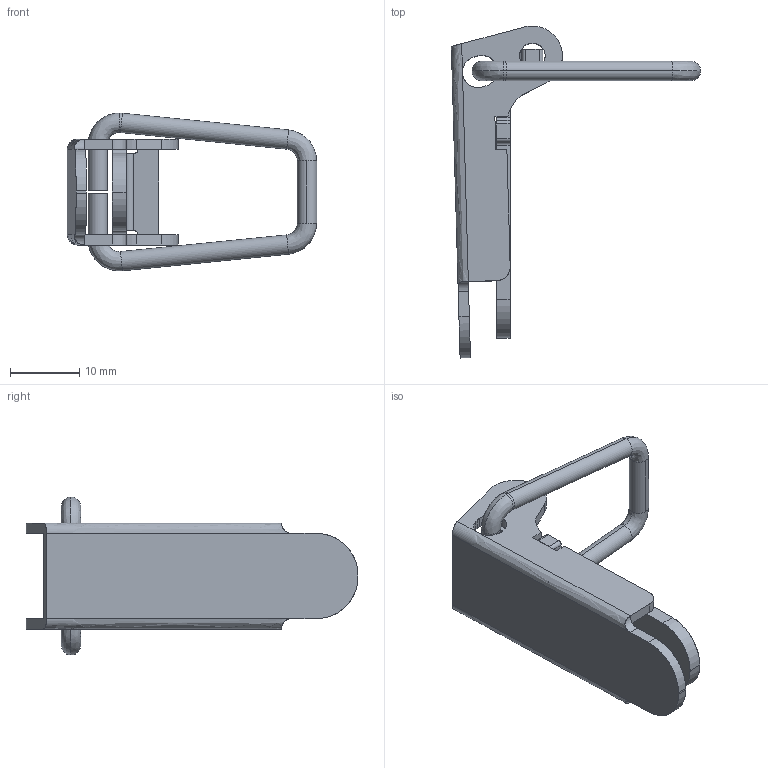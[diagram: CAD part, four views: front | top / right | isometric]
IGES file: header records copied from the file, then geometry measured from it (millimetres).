
Start section: SolidWorks IGES file using analytic representation for surfaces
Global section: file name: Z:\Mes documents\ATAO iges\Gamme GO\GO 1015.IGS; native system: SolidWorks 2013; preprocessor: SolidWorks 2013; author: cbrechard; date: 160310.143442; units: millimetre
Bounding box: 36 x 47.93 x 22.79 mm (x, y, z)
Surface area: 4660.8 mm2 (no closed solid volume)
Topology: 0 solids, 0 shells, 113 faces, 1374 edges, 1370 vertices
Faces by surface type: bspline 57, revolution 56
